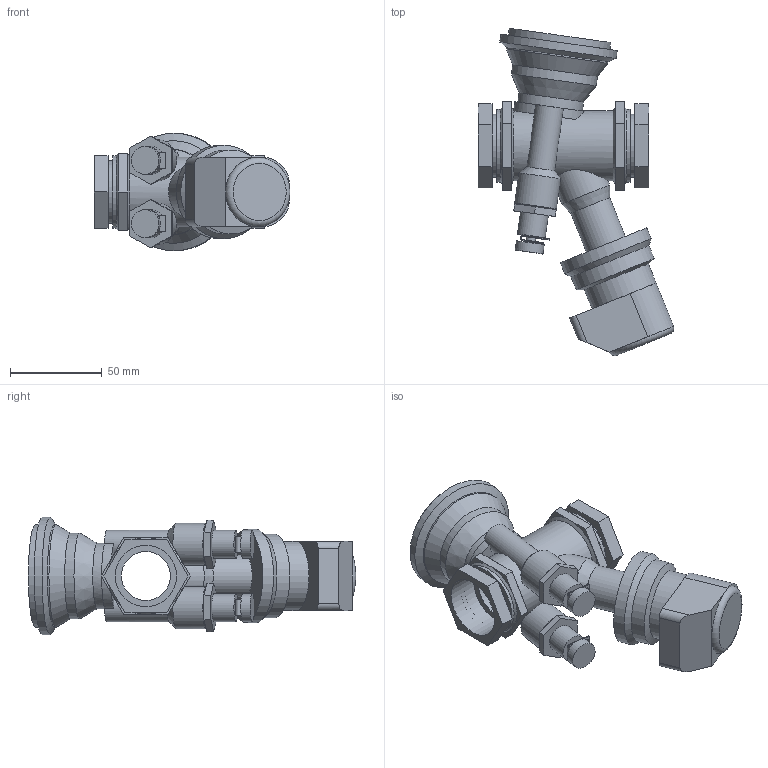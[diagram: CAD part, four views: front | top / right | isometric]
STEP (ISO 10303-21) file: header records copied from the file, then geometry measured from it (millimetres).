
FILE_DESCRIPTION(/* description */ ('VIC BALANCING AND CONTROL VALVE SERIES 7CP (FPT)-EMO TM','CAx-IF Rec.Pracs.---Representation and Presentation of Product Manufacturing Information (PMI)---4.0---2014-10-13'),/* implementation_level */ '2;1');
FILE_NAME(/* name */ 'C:\Users\Vjadhav\AppData\Roaming\Autodesk\ApplicationPlugins\Victaulic.Temp\A633\Victaulic_IPS_Valve Balancing Pressure Independent_TA Series 7CP (FPT)_EMO TM_1 (25).stp',/* time_stamp */ '2021-09-14T20:03:43+06:00',/* author */ ('Vjadhav'),/* organization */ ('Victaulic'),/* preprocessor_version */ 'ST-DEVELOPER v17.2',/* originating_system */ 'Autodesk Inventor 2019',/* authorisation */ '');
FILE_SCHEMA (('AP242_MANAGED_MODEL_BASED_3D_ENGINEERING_MIM_LF { 1 0 10303 442 1 1 4 }'));
Length unit declared in the file: inch
Products named in the file (2): 7CP_EMO TM-01.0; 7CP-01.0
Assembly tree (1 placements, depth 2):
  7CP_EMO TM-01.0
    7CP-01.0
Bounding box: 106.69 x 178.31 x 64.01 mm (x, y, z)
Volume: 253169.1 mm3; surface area: 60493.7 mm2
Topology: 1 solids, 1 shells, 176 faces, 444 edges, 294 vertices
Faces by surface type: plane 118, cylinder 45, cone 12, torus 1
Full cylindrical faces by diameter (mm): 5.08 x6, 15.24 x6, 22.809 x1, 22.86 x2, 26.645 x2, 27.94 x1, 33.401 x3, 34.29 x2, 35.56 x1, 37.631 x1, 38.1 x1, 39.624 x2, 45.72 x1, 46.609 x1, 50.8 x1, 55.88 x2, 64.008 x1
Entity records: 5842 total; most frequent: CARTESIAN_POINT 1148, DIRECTION 968, ORIENTED_EDGE 888, EDGE_CURVE 444, AXIS2_PLACEMENT_3D 362, VERTEX_POINT 294, LINE 244, VECTOR 244
